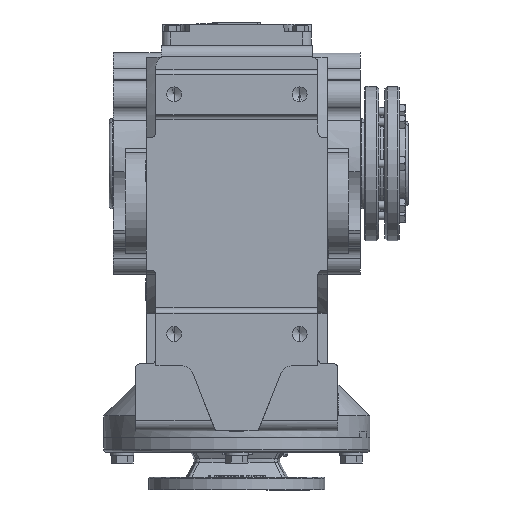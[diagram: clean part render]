
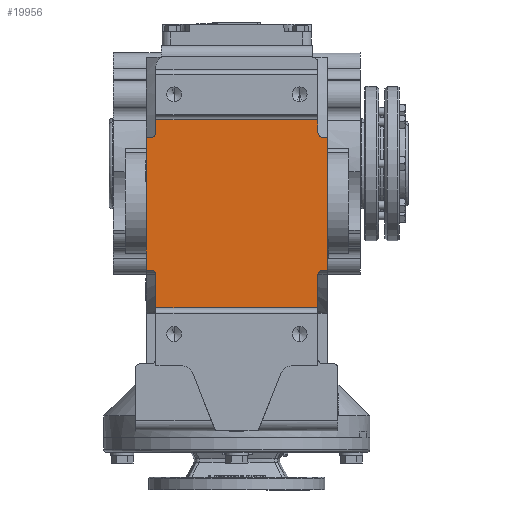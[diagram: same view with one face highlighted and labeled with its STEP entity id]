
A CAD part, front view. The second image highlights one B-rep face of the part: STEP entity #19956.
In plain terms, the highlighted planar face has unit normal (0, -1, 0).
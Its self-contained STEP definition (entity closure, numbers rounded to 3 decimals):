
#1322 = FACE_OUTER_BOUND ( 'NONE', #5423, .T. ) ;
#2918 = AXIS2_PLACEMENT_3D ( 'NONE', #55522, #55523, #55524 ) ;
#2930 = AXIS2_PLACEMENT_3D ( 'NONE', #55594, #55595, #55596 ) ;
#3061 = AXIS2_PLACEMENT_3D ( 'NONE', #45308, #45310, #45312 ) ;
#3064 = AXIS2_PLACEMENT_3D ( 'NONE', #45392, #45394, #45396 ) ;
#5423 = EDGE_LOOP ( 'NONE', ( #50055, #50057, #50059, #50061, #50063, #50065, #50067, #50069, #50071, #50073, #50075, #35506, #35505, #35504, #35503, #35502 ) ) ;
#9892 = CARTESIAN_POINT ( 'NONE',  ( -112., -206., 7. ) ) ;
#9899 = PLANE ( 'NONE',  #47001 ) ;
#9903 = DIRECTION ( 'NONE',  ( 0., -1., 0. ) ) ;
#9905 = DIRECTION ( 'NONE',  ( 0., 0., -1. ) ) ;
#19956 = ADVANCED_FACE ( 'NONE', ( #1322 ), #9899, .T. ) ;
#26190 = VERTEX_POINT ( 'NONE', #56966 ) ;
#26195 = VERTEX_POINT ( 'NONE', #56975 ) ;
#26196 = VERTEX_POINT ( 'NONE', #56977 ) ;
#26197 = VERTEX_POINT ( 'NONE', #56978 ) ;
#26198 = VERTEX_POINT ( 'NONE', #56980 ) ;
#26203 = VERTEX_POINT ( 'NONE', #56989 ) ;
#26386 = VERTEX_POINT ( 'NONE', #57270 ) ;
#26479 = VERTEX_POINT ( 'NONE', #57359 ) ;
#26481 = VERTEX_POINT ( 'NONE', #57360 ) ;
#26534 = VERTEX_POINT ( 'NONE', #57402 ) ;
#26547 = VERTEX_POINT ( 'NONE', #57409 ) ;
#26552 = VERTEX_POINT ( 'NONE', #57412 ) ;
#26565 = VERTEX_POINT ( 'NONE', #57419 ) ;
#26573 = VERTEX_POINT ( 'NONE', #57423 ) ;
#26605 = VERTEX_POINT ( 'NONE', #57440 ) ;
#26606 = VERTEX_POINT ( 'NONE', #57441 ) ;
#27737 = CIRCLE ( 'NONE', #2918, 5. ) ;
#27738 = LINE ( 'NONE', #55527, #27745 ) ;
#27745 = VECTOR ( 'NONE', #55508, 1000. ) ;
#27749 = LINE ( 'NONE', #55533, #27751 ) ;
#27751 = VECTOR ( 'NONE', #55534, 1000. ) ;
#27765 = LINE ( 'NONE', #55564, #27768 ) ;
#27768 = VECTOR ( 'NONE', #55565, 1000. ) ;
#27785 = CIRCLE ( 'NONE', #2930, 5. ) ;
#28269 = LINE ( 'NONE', #44993, #28297 ) ;
#28276 = LINE ( 'NONE', #45002, #28282 ) ;
#28280 = LINE ( 'NONE', #45004, #28285 ) ;
#28282 = VECTOR ( 'NONE', #45003, 1000. ) ;
#28284 = LINE ( 'NONE', #45006, #28289 ) ;
#28285 = VECTOR ( 'NONE', #45005, 1000. ) ;
#28287 = LINE ( 'NONE', #45008, #28293 ) ;
#28289 = VECTOR ( 'NONE', #45007, 1000. ) ;
#28293 = VECTOR ( 'NONE', #45010, 1000. ) ;
#28297 = VECTOR ( 'NONE', #45011, 1000. ) ;
#28302 = LINE ( 'NONE', #45022, #28305 ) ;
#28305 = VECTOR ( 'NONE', #45023, 1000. ) ;
#28342 = CIRCLE ( 'NONE', #3061, 5. ) ;
#28347 = LINE ( 'NONE', #45303, #28349 ) ;
#28349 = VECTOR ( 'NONE', #45306, 1000. ) ;
#28365 = CIRCLE ( 'NONE', #3064, 5. ) ;
#32301 = EDGE_CURVE ( 'NONE', #26196, #26190, #27737, .T. ) ;
#32305 = EDGE_CURVE ( 'NONE', #26196, #26198, #27738, .T. ) ;
#32309 = EDGE_CURVE ( 'NONE', #26195, #26198, #27749, .T. ) ;
#32319 = EDGE_CURVE ( 'NONE', #26195, #26197, #27765, .T. ) ;
#32331 = EDGE_CURVE ( 'NONE', #26203, #26197, #27785, .T. ) ;
#32709 = EDGE_CURVE ( 'NONE', #26481, #26386, #28276, .T. ) ;
#32710 = EDGE_CURVE ( 'NONE', #26203, #26605, #28280, .T. ) ;
#32711 = EDGE_CURVE ( 'NONE', #26605, #26606, #28284, .T. ) ;
#32712 = EDGE_CURVE ( 'NONE', #26534, #26552, #28287, .T. ) ;
#32713 = EDGE_CURVE ( 'NONE', #26565, #26547, #28269, .T. ) ;
#32718 = EDGE_CURVE ( 'NONE', #26606, #26573, #28302, .T. ) ;
#32752 = EDGE_CURVE ( 'NONE', #26534, #26573, #28342, .T. ) ;
#32755 = EDGE_CURVE ( 'NONE', #26565, #26552, #28347, .T. ) ;
#32767 = EDGE_CURVE ( 'NONE', #26479, #26547, #28365, .T. ) ;
#32818 = EDGE_CURVE ( 'NONE', #26479, #26481, #52567, .T. ) ;
#32885 = EDGE_CURVE ( 'NONE', #26190, #26386, #52764, .T. ) ;
#35502 = ORIENTED_EDGE ( 'NONE', *, *, #32767, .T. ) ;
#35503 = ORIENTED_EDGE ( 'NONE', *, *, #32818, .F. ) ;
#35504 = ORIENTED_EDGE ( 'NONE', *, *, #32709, .F. ) ;
#35505 = ORIENTED_EDGE ( 'NONE', *, *, #32885, .T. ) ;
#35506 = ORIENTED_EDGE ( 'NONE', *, *, #32301, .T. ) ;
#44993 = CARTESIAN_POINT ( 'NONE',  ( 76., -206., 46. ) ) ;
#45002 = CARTESIAN_POINT ( 'NONE',  ( 85., -206., 7. ) ) ;
#45003 = DIRECTION ( 'NONE',  ( 0., 0., -1. ) ) ;
#45004 = CARTESIAN_POINT ( 'NONE',  ( -76., -206., -100. ) ) ;
#45005 = DIRECTION ( 'NONE',  ( -1., 0., 0. ) ) ;
#45006 = CARTESIAN_POINT ( 'NONE',  ( -85., -206., 7. ) ) ;
#45007 = DIRECTION ( 'NONE',  ( 0., 0., 1. ) ) ;
#45008 = CARTESIAN_POINT ( 'NONE',  ( -76., -206., 46. ) ) ;
#45010 = DIRECTION ( 'NONE',  ( 0., 0., 1. ) ) ;
#45011 = DIRECTION ( 'NONE',  ( 0., 0., -1. ) ) ;
#45022 = CARTESIAN_POINT ( 'NONE',  ( -76., -206., 24.651 ) ) ;
#45023 = DIRECTION ( 'NONE',  ( 1., 0., 0. ) ) ;
#45303 = CARTESIAN_POINT ( 'NONE',  ( -112., -206., 41. ) ) ;
#45306 = DIRECTION ( 'NONE',  ( -1., 0., 0. ) ) ;
#45308 = CARTESIAN_POINT ( 'NONE',  ( -81., -206., 29.651 ) ) ;
#45310 = DIRECTION ( 'NONE',  ( 0., 1., 0. ) ) ;
#45312 = DIRECTION ( 'NONE',  ( 0., 0., -1. ) ) ;
#45392 = CARTESIAN_POINT ( 'NONE',  ( 81., -206., 29.651 ) ) ;
#45394 = DIRECTION ( 'NONE',  ( 0., 1., 0. ) ) ;
#45396 = DIRECTION ( 'NONE',  ( 0., 0., -1. ) ) ;
#45911 = CARTESIAN_POINT ( 'NONE',  ( 85., -206., 24.651 ) ) ;
#45914 = DIRECTION ( 'NONE',  ( 1., 0., 0. ) ) ;
#47001 = AXIS2_PLACEMENT_3D ( 'NONE', #9892, #9903, #9905 ) ;
#50055 = ORIENTED_EDGE ( 'NONE', *, *, #32713, .F. ) ;
#50057 = ORIENTED_EDGE ( 'NONE', *, *, #32755, .T. ) ;
#50059 = ORIENTED_EDGE ( 'NONE', *, *, #32712, .F. ) ;
#50061 = ORIENTED_EDGE ( 'NONE', *, *, #32752, .T. ) ;
#50063 = ORIENTED_EDGE ( 'NONE', *, *, #32718, .F. ) ;
#50065 = ORIENTED_EDGE ( 'NONE', *, *, #32711, .F. ) ;
#50067 = ORIENTED_EDGE ( 'NONE', *, *, #32710, .F. ) ;
#50069 = ORIENTED_EDGE ( 'NONE', *, *, #32331, .T. ) ;
#50071 = ORIENTED_EDGE ( 'NONE', *, *, #32319, .F. ) ;
#50073 = ORIENTED_EDGE ( 'NONE', *, *, #32309, .T. ) ;
#50075 = ORIENTED_EDGE ( 'NONE', *, *, #32305, .F. ) ;
#52513 = CARTESIAN_POINT ( 'NONE',  ( 76., -206., -100. ) ) ;
#52515 = DIRECTION ( 'NONE',  ( 1., 0., 0. ) ) ;
#52567 = LINE ( 'NONE', #45911, #52592 ) ;
#52592 = VECTOR ( 'NONE', #45914, 1000. ) ;
#52764 = LINE ( 'NONE', #52513, #52770 ) ;
#52770 = VECTOR ( 'NONE', #52515, 1000. ) ;
#55508 = DIRECTION ( 'NONE',  ( 0., 0., -1. ) ) ;
#55522 = CARTESIAN_POINT ( 'NONE',  ( 81., -206., -105. ) ) ;
#55523 = DIRECTION ( 'NONE',  ( 0., 1., 0. ) ) ;
#55524 = DIRECTION ( 'NONE',  ( 0., 0., -1. ) ) ;
#55527 = CARTESIAN_POINT ( 'NONE',  ( 76., -206., -100. ) ) ;
#55533 = CARTESIAN_POINT ( 'NONE',  ( -112., -206., -135.346 ) ) ;
#55534 = DIRECTION ( 'NONE',  ( 1., 0., 0. ) ) ;
#55564 = CARTESIAN_POINT ( 'NONE',  ( -76., -206., -103. ) ) ;
#55565 = DIRECTION ( 'NONE',  ( 0., 0., 1. ) ) ;
#55594 = CARTESIAN_POINT ( 'NONE',  ( -81., -206., -105. ) ) ;
#55595 = DIRECTION ( 'NONE',  ( 0., 1., 0. ) ) ;
#55596 = DIRECTION ( 'NONE',  ( 0., 0., -1. ) ) ;
#56966 = CARTESIAN_POINT ( 'NONE',  ( 81., -206., -100. ) ) ;
#56975 = CARTESIAN_POINT ( 'NONE',  ( -76., -206., -135.346 ) ) ;
#56977 = CARTESIAN_POINT ( 'NONE',  ( 76., -206., -105. ) ) ;
#56978 = CARTESIAN_POINT ( 'NONE',  ( -76., -206., -105. ) ) ;
#56980 = CARTESIAN_POINT ( 'NONE',  ( 76., -206., -135.346 ) ) ;
#56989 = CARTESIAN_POINT ( 'NONE',  ( -81., -206., -100. ) ) ;
#57270 = CARTESIAN_POINT ( 'NONE',  ( 85., -206., -100. ) ) ;
#57359 = CARTESIAN_POINT ( 'NONE',  ( 81., -206., 24.651 ) ) ;
#57360 = CARTESIAN_POINT ( 'NONE',  ( 85., -206., 24.651 ) ) ;
#57402 = CARTESIAN_POINT ( 'NONE',  ( -76., -206., 29.651 ) ) ;
#57409 = CARTESIAN_POINT ( 'NONE',  ( 76., -206., 29.651 ) ) ;
#57412 = CARTESIAN_POINT ( 'NONE',  ( -76., -206., 41. ) ) ;
#57419 = CARTESIAN_POINT ( 'NONE',  ( 76., -206., 41. ) ) ;
#57423 = CARTESIAN_POINT ( 'NONE',  ( -81., -206., 24.651 ) ) ;
#57440 = CARTESIAN_POINT ( 'NONE',  ( -85., -206., -100. ) ) ;
#57441 = CARTESIAN_POINT ( 'NONE',  ( -85., -206., 24.651 ) ) ;
